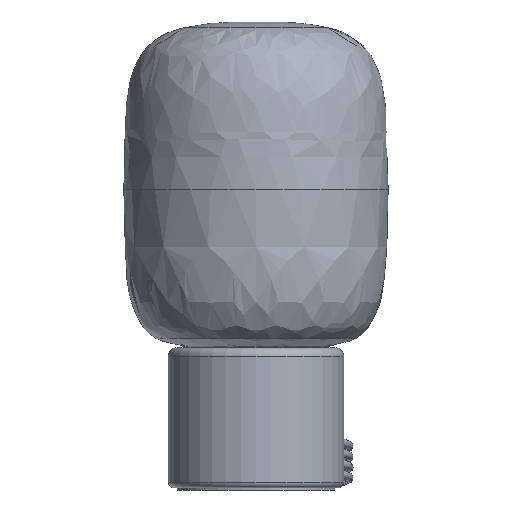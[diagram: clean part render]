
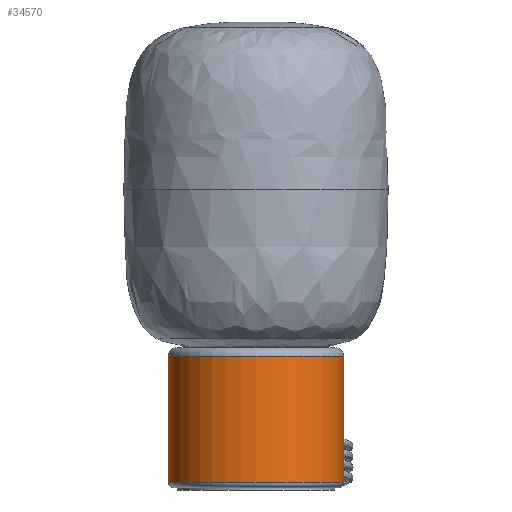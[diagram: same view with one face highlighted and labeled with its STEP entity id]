
A CAD part, front view. The second image highlights one B-rep face of the part: STEP entity #34570.
In plain terms, the highlighted cylindrical face has radius 63.5 mm (diameter 127 mm), a full revolution.
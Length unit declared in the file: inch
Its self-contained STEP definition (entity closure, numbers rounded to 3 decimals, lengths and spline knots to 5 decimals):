
#1033=FACE_BOUND('',#11599,.T.);
#1215=CYLINDRICAL_SURFACE('',#36780,2.5);
#1352=LINE('',#47953,#4617);
#4617=VECTOR('',#38439,2.5);
#7911=B_SPLINE_CURVE_WITH_KNOTS('',3,(#47955,#47956,#47957,#47958,#47959,
#47960,#47961,#47962,#47963,#47964,#47965,#47966,#47967,#47968,#47969,#47970,
#47971,#47972,#47973,#47974,#47975,#47976,#47977,#47978,#47979,#47980,#47981,
#47982,#47983,#47984,#47985,#47986,#47987,#47988),.UNSPECIFIED.,.T.,.F.,
(4,2,2,2,2,2,2,2,2,2,2,2,2,2,2,2,4),(0.,0.19144,0.38288,
0.57429,0.7657,0.95719,1.14868,
1.34013,1.53157,1.72302,1.91447,2.10596,
2.29745,2.48886,2.68027,2.87171,3.06315),
 .UNSPECIFIED.);
#9594=FACE_OUTER_BOUND('',#11598,.T.);
#11598=EDGE_LOOP('',(#23045,#23046,#23047,#23048));
#11599=EDGE_LOOP('',(#23049));
#13786=CIRCLE('',#36777,2.5);
#13789=CIRCLE('',#36781,2.5);
#14146=VERTEX_POINT('',#47945);
#14148=VERTEX_POINT('',#47951);
#14149=VERTEX_POINT('',#47954);
#17663=EDGE_CURVE('',#14146,#14146,#13786,.T.);
#17666=EDGE_CURVE('',#14148,#14148,#13789,.T.);
#17667=EDGE_CURVE('',#14148,#14146,#1352,.T.);
#17668=EDGE_CURVE('',#14149,#14149,#7911,.F.);
#23045=ORIENTED_EDGE('',*,*,#17666,.F.);
#23046=ORIENTED_EDGE('',*,*,#17667,.T.);
#23047=ORIENTED_EDGE('',*,*,#17663,.F.);
#23048=ORIENTED_EDGE('',*,*,#17667,.F.);
#23049=ORIENTED_EDGE('',*,*,#17668,.T.);
#34570=ADVANCED_FACE('',(#9594,#1033),#1215,.T.);
#36777=AXIS2_PLACEMENT_3D('',#47946,#38429,#38430);
#36780=AXIS2_PLACEMENT_3D('',#47950,#38435,#38436);
#36781=AXIS2_PLACEMENT_3D('',#47952,#38437,#38438);
#38429=DIRECTION('center_axis',(0.,0.,-1.));
#38430=DIRECTION('ref_axis',(1.,0.,0.));
#38435=DIRECTION('center_axis',(0.,0.,1.));
#38436=DIRECTION('ref_axis',(1.,0.,0.));
#38437=DIRECTION('center_axis',(0.,0.,1.));
#38438=DIRECTION('ref_axis',(1.,0.,0.));
#38439=DIRECTION('',(0.,0.,-1.));
#47945=CARTESIAN_POINT('',(-2.5,0.,0.16));
#47946=CARTESIAN_POINT('Origin',(0.,0.,0.16));
#47950=CARTESIAN_POINT('Origin',(0.,0.,0.));
#47951=CARTESIAN_POINT('',(-2.5,0.,3.75));
#47952=CARTESIAN_POINT('Origin',(0.,0.,3.75));
#47953=CARTESIAN_POINT('',(-2.5,0.,0.));
#47954=CARTESIAN_POINT('',(-0.18297,2.4933,0.60024));
#47955=CARTESIAN_POINT('Ctrl Pts',(-0.18297,2.4933,
0.60024));
#47956=CARTESIAN_POINT('Ctrl Pts',(-0.18297,2.4933,
0.62537));
#47957=CARTESIAN_POINT('Ctrl Pts',(-0.17795,2.49368,
0.65216));
#47958=CARTESIAN_POINT('Ctrl Pts',(-0.15753,2.49505,
0.70143));
#47959=CARTESIAN_POINT('Ctrl Pts',(-0.14214,2.49602,0.72392));
#47960=CARTESIAN_POINT('Ctrl Pts',(-0.10663,2.49779,0.75942));
#47961=CARTESIAN_POINT('Ctrl Pts',(-0.08415,2.49871,
0.77481));
#47962=CARTESIAN_POINT('Ctrl Pts',(-0.03488,2.49988,
0.79522));
#47963=CARTESIAN_POINT('Ctrl Pts',(-0.00809,2.50011,
0.80024));
#47964=CARTESIAN_POINT('Ctrl Pts',(0.04216,2.49977,
0.80024));
#47965=CARTESIAN_POINT('Ctrl Pts',(0.06896,2.49917,
0.79522));
#47966=CARTESIAN_POINT('Ctrl Pts',(0.11823,2.49732,0.7748));
#47967=CARTESIAN_POINT('Ctrl Pts',(0.14071,2.4961,0.75941));
#47968=CARTESIAN_POINT('Ctrl Pts',(0.17621,2.49385,0.72391));
#47969=CARTESIAN_POINT('Ctrl Pts',(0.1916,2.49267,0.70143));
#47970=CARTESIAN_POINT('Ctrl Pts',(0.21201,2.49102,0.65216));
#47971=CARTESIAN_POINT('Ctrl Pts',(0.21703,2.49056,0.62537));
#47972=CARTESIAN_POINT('Ctrl Pts',(0.21703,2.49056,0.57512));
#47973=CARTESIAN_POINT('Ctrl Pts',(0.21201,2.49102,0.54833));
#47974=CARTESIAN_POINT('Ctrl Pts',(0.1916,2.49267,0.49906));
#47975=CARTESIAN_POINT('Ctrl Pts',(0.17621,2.49385,0.47658));
#47976=CARTESIAN_POINT('Ctrl Pts',(0.14071,2.4961,0.44108));
#47977=CARTESIAN_POINT('Ctrl Pts',(0.11823,2.49732,0.42568));
#47978=CARTESIAN_POINT('Ctrl Pts',(0.06896,2.49917,
0.40527));
#47979=CARTESIAN_POINT('Ctrl Pts',(0.04216,2.49977,
0.40024));
#47980=CARTESIAN_POINT('Ctrl Pts',(-0.00809,2.50011,
0.40024));
#47981=CARTESIAN_POINT('Ctrl Pts',(-0.03488,2.49988,
0.40526));
#47982=CARTESIAN_POINT('Ctrl Pts',(-0.08415,2.49871,
0.42567));
#47983=CARTESIAN_POINT('Ctrl Pts',(-0.10663,2.49779,0.44106));
#47984=CARTESIAN_POINT('Ctrl Pts',(-0.14214,2.49602,0.47657));
#47985=CARTESIAN_POINT('Ctrl Pts',(-0.15753,2.49505,
0.49905));
#47986=CARTESIAN_POINT('Ctrl Pts',(-0.17795,2.49368,
0.54833));
#47987=CARTESIAN_POINT('Ctrl Pts',(-0.18297,2.4933,
0.57512));
#47988=CARTESIAN_POINT('Ctrl Pts',(-0.18297,2.4933,
0.60024));
